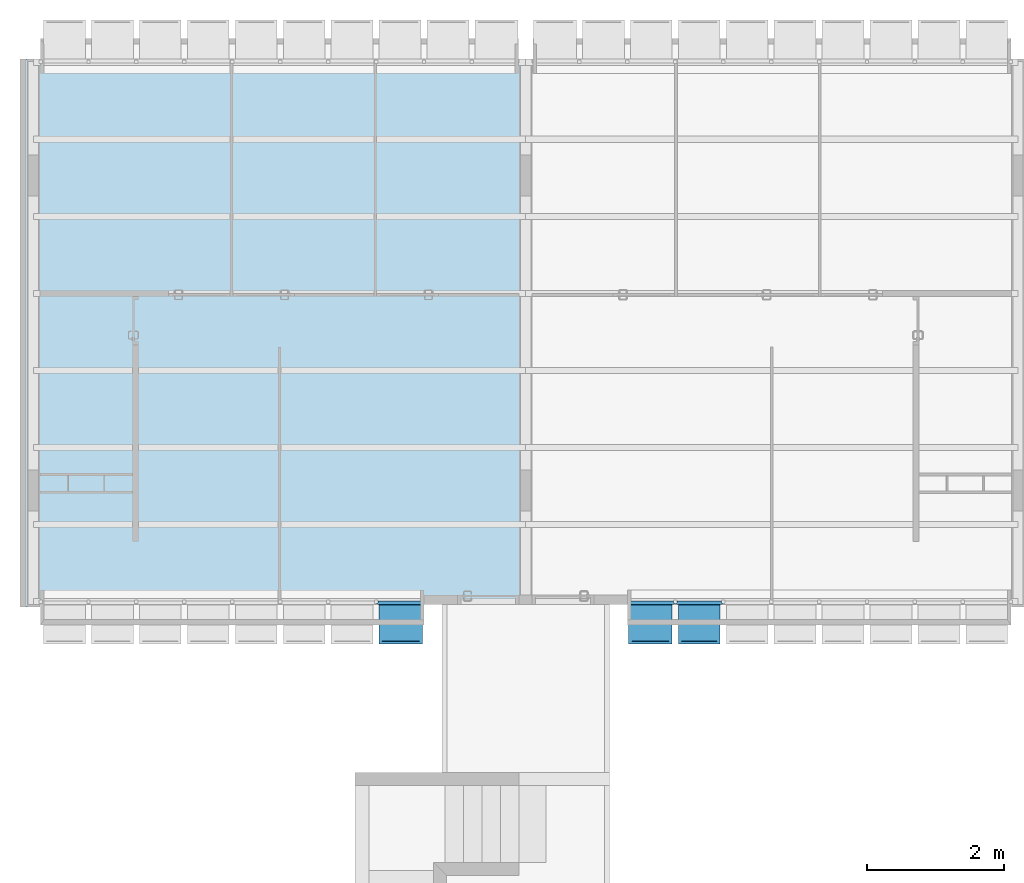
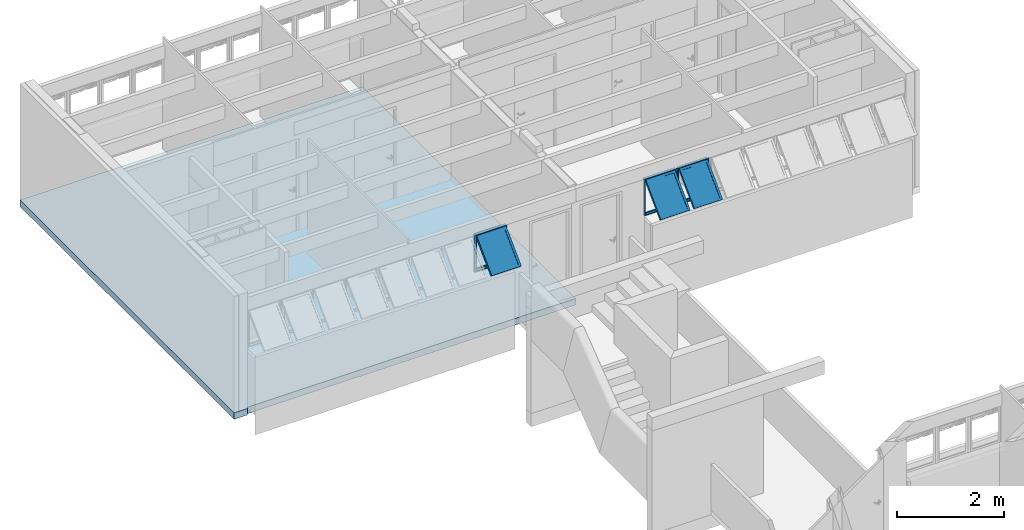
# One storey, part 12 of 40: 3 plates, 1 slab, 2 elements without a shape of their own.
"""IFC4 building model written with IfcOpenShell, lengths in millimetres."""

from ifc_helpers import new_model, entity, si_unit, converted_unit, derived_unit, direction, frame, origin_with_axes, place, context, subcontext, project, spatial, line, indexed_curve, outline, extrude, polygons, source, transform, mapped, material, layer, layer_set, layer_usage, constituent, constituent_set, type_object, element, aggregate, save


model = new_model("IFC4")

# Units and contexts
model_context = context("Model", 3, precision=0.01, world=origin_with_axes(), true_north=direction((0.0, 1.0)))
body_context = subcontext(model_context, "Body", "Model", "MODEL_VIEW")
ifc_project = project(units=[si_unit("LENGTHUNIT", "METRE", prefix="MILLI"), si_unit("AREAUNIT", "SQUARE_METRE"), si_unit("VOLUMEUNIT", "CUBIC_METRE"), converted_unit("PLANEANGLEUNIT", "DEGREE", entity("IfcPlaneAngleMeasure", 0.0174532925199), si_unit("PLANEANGLEUNIT", "RADIAN"), dimensions=[0, 0, 0, 0, 0, 0, 0]), converted_unit("TIMEUNIT", "Year", entity("IfcTimeMeasure", 31556926.0), si_unit("TIMEUNIT", "SECOND"), dimensions=[0, 0, 1, 0, 0, 0, 0]), si_unit("MASSUNIT", "GRAM", prefix="KILO"), si_unit("THERMODYNAMICTEMPERATUREUNIT", "DEGREE_CELSIUS"), si_unit("LUMINOUSINTENSITYUNIT", "LUMEN"), si_unit("ENERGYUNIT", "JOULE", prefix="MEGA"), derived_unit("THERMALCONDUCTANCEUNIT", [(si_unit("POWERUNIT", "WATT"), 1), (si_unit("LENGTHUNIT", "METRE"), -1), (si_unit("THERMODYNAMICTEMPERATUREUNIT", "KELVIN"), -1)]), derived_unit("SPECIFICHEATCAPACITYUNIT", [(si_unit("ENERGYUNIT", "JOULE"), 1), (si_unit("MASSUNIT", "GRAM", prefix="KILO"), -1), (si_unit("THERMODYNAMICTEMPERATUREUNIT", "KELVIN"), -1)]), derived_unit("MASSDENSITYUNIT", [(si_unit("MASSUNIT", "GRAM", prefix="KILO"), 1), (si_unit("VOLUMEUNIT", "CUBIC_METRE"), -1)])], contexts=[model_context])

# Site, building, storey
site_placement = place(None, origin_with_axes())
site = spatial("IfcSite", under=ifc_project, at=site_placement, Name="Local", CompositionType="ELEMENT")
building_placement = place(site_placement, origin_with_axes())
building = spatial("IfcBuilding", under=site, at=building_placement, Name="Construção", CompositionType="ELEMENT")
storey_placement = place(building_placement, origin_with_axes())
storey = spatial("IfcBuildingStorey", under=building, at=storey_placement, Name="Primeiro Pavimento", CompositionType="ELEMENT", Elevation=0.0)

# Slab
ifc_material_1 = material(Name="Concreto Armado Moldado in Loco - Estrutural")
ifc_layer = layer(ifc_material_1, 150.0, ventilated="UNKNOWN", Name="Concreto Armado Moldado in Loco - Estrutural")
ifc_layer_set = layer_set([ifc_layer], Name="Concreto Armado Moldado in Loco - Estrutural 150")
ifc_layer_usage = layer_usage(ifc_layer_set, "AXIS3", "NEGATIVE", 150.0)
slab_type = type_object("IfcSlabType", Name="Concreto Armado Moldado in Loco - Estrutural 150", PredefinedType="FLOOR")
slab_placement = place(storey_placement, frame((0.0, 25860.0, 0.0), z_axis=(0.0, 0.0, 1.0), x_axis=(1.0, 0.0, 0.0)))
element("IfcSlab", 1, at=slab_placement, inside=storey, type_object=slab_type, material=ifc_layer_usage, Name="APTO3-LAJE-000", PredefinedType="FLOOR", context=body_context, shape_type="SweptSolid", body=[
    extrude(outline(indexed_curve([(0.0, 0.0), (0.0, -7999.99999872), (289.999999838, -8000.00000006), (290.0, -7965.0), (5900.0, -7965.0), (6160.00008404, -7964.99999866), (7385.0, -7964.99999866), (7385.0, 0.0), (299.999978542, 0.0)], segments=[line(1, 2, 3, 4, 5, 6, 7, 8, 9, 1)])), frame((0.0, 0.0, -150.0), z_axis=(0.0, 0.0, 1.0), x_axis=(1.0, 0.0, 0.0)), (0.0, 0.0, 1.0), 150.0),
])

# Window, plates
window_type = type_object("IfcWindowType", Name="Tipo de Parede Cortina", PartitioningType="NOTDEFINED", PredefinedType="NOTDEFINED")
window_1_placement = place(storey_placement, frame((12020.0, 17910.0, 1355.00007107), z_axis=(0.0, 0.0, 1.0), x_axis=(1.0, 0.0, 0.0)))
window_1 = element("IfcWindow", 2, at=window_1_placement, inside=storey, type_object=window_type, Name="APTO4-JANELA-000", PredefinedType="NOTDEFINED")
ifc_material_2 = material(Name="Alumínio")
ifc_constituent_1 = constituent(ifc_material_2, Name="Alumínio")
ifc_material_3 = material(Name="Vidro")
ifc_constituent_2 = constituent(ifc_material_3, Name="Vidro")
ifc_constituent_set_1 = constituent_set(constituents=[ifc_constituent_1, ifc_constituent_2])
plate_type_1 = type_object("IfcPlateType", Name="Painel Principal 690 x 845 x 20", PredefinedType="CURTAIN_PANEL")
shared_shape_1 = source(origin_with_axes(), body_context, "Body", "Tessellation", [
    polygons([(-25.0000036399, 0.0, -40.0), (-25.0000036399, 0.0, -35.0), (-674.999997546, 0.0, -35.0), (-674.999997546, 0.0, -40.0), (-70.0000036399, 45.0, -40.0), (-70.0000036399, 45.0, -35.0), (-629.999997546, 45.0, -35.0), (-629.999997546, 45.0, -40.0)], [[[1, 2, 3, 4]], [[5, 6, 2, 1]], [[2, 6, 7, 3]], [[4, 3, 7, 8]], [[1, 4, 8, 5]], [[8, 7, 6, 5]]], closed=True),
    polygons([(-674.999997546, 0.0, -40.0), (-674.999997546, 0.0, -35.0), (-674.999997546, 844.999891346, -35.0), (-674.999997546, 844.999891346, -40.0), (-629.999997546, 45.0, -40.0), (-629.999997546, 45.0, -35.0), (-629.999997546, 799.999891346, -35.0), (-629.999997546, 799.999891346, -40.0)], [[[1, 2, 3, 4]], [[5, 6, 2, 1]], [[2, 6, 7, 3]], [[4, 3, 7, 8]], [[1, 4, 8, 5]], [[8, 7, 6, 5]]], closed=True),
    polygons([(-25.0000036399, 844.999891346, -40.0), (-25.0000036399, 844.999891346, -35.0), (-70.0000036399, 799.999891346, -35.0), (-70.0000036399, 799.999891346, -40.0), (-674.999997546, 844.999891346, -40.0), (-674.999997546, 844.999891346, -35.0), (-629.999997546, 799.999891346, -35.0), (-629.999997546, 799.999891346, -40.0)], [[[1, 2, 3, 4]], [[5, 6, 2, 1]], [[2, 6, 7, 3]], [[4, 3, 7, 8]], [[1, 4, 8, 5]], [[8, 7, 6, 5]]], closed=True),
    polygons([(-25.0000036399, 0.0, -40.0), (-25.0000036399, 0.0, -35.0), (-70.0000036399, 45.0, -35.0), (-70.0000036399, 45.0, -40.0), (-25.0000036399, 844.999891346, -40.0), (-25.0000036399, 844.999891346, -35.0), (-70.0000036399, 799.999891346, -35.0), (-70.0000036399, 799.999891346, -40.0)], [[[1, 2, 3, 4]], [[5, 6, 2, 1]], [[2, 6, 7, 3]], [[4, 3, 7, 8]], [[1, 4, 8, 5]], [[8, 7, 6, 5]]], closed=True),
    polygons([(-25.0000036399, 0.0, -35.0), (-25.0000036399, 0.0, 15.0), (-674.999997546, 0.0, 15.0), (-674.999997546, 0.0, -35.0), (-45.0000036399, 20.0, -35.0), (-45.0000036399, 20.0, 15.0), (-654.999997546, 20.0, 15.0), (-654.999997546, 20.0, -35.0)], [[[1, 2, 3, 4]], [[5, 6, 2, 1]], [[2, 6, 7, 3]], [[4, 3, 7, 8]], [[1, 4, 8, 5]], [[8, 7, 6, 5]]], closed=True),
    polygons([(-674.999997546, 0.0, -35.0), (-674.999997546, 0.0, 15.0), (-674.999997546, 844.999891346, 15.0), (-674.999997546, 844.999891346, -35.0), (-654.999997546, 20.0, -35.0), (-654.999997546, 20.0, 15.0), (-654.999997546, 824.999891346, 15.0), (-654.999997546, 824.999891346, -35.0)], [[[1, 2, 3, 4]], [[5, 6, 2, 1]], [[2, 6, 7, 3]], [[4, 3, 7, 8]], [[1, 4, 8, 5]], [[8, 7, 6, 5]]], closed=True),
    polygons([(-25.0000036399, 844.999891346, -35.0), (-25.0000036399, 844.999891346, 15.0), (-45.0000036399, 824.999891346, 15.0), (-45.0000036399, 824.999891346, -35.0), (-674.999997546, 844.999891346, -35.0), (-674.999997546, 844.999891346, 15.0), (-654.999997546, 824.999891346, 15.0), (-654.999997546, 824.999891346, -35.0)], [[[1, 2, 3, 4]], [[5, 6, 2, 1]], [[2, 6, 7, 3]], [[4, 3, 7, 8]], [[1, 4, 8, 5]], [[8, 7, 6, 5]]], closed=True),
    polygons([(-25.0000036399, 0.0, -35.0), (-25.0000036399, 0.0, 15.0), (-45.0000036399, 20.0, 15.0), (-45.0000036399, 20.0, -35.0), (-25.0000036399, 844.999891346, -35.0), (-25.0000036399, 844.999891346, 15.0), (-45.0000036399, 824.999891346, 15.0), (-45.0000036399, 824.999891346, -35.0)], [[[1, 2, 3, 4]], [[5, 6, 2, 1]], [[2, 6, 7, 3]], [[4, 3, 7, 8]], [[1, 4, 8, 5]], [[8, 7, 6, 5]]], closed=True),
    polygons([(-694.999995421, 0.0, -10.0), (-694.999995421, 0.0, 10.0), (-694.999995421, 844.999891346, 10.0), (-694.999995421, 844.999891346, -10.0), (-674.999997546, 0.0, -10.0), (-674.999997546, 0.0, 10.0), (-674.999997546, 844.999891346, 10.0), (-674.999997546, 844.999891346, -10.0)], [[[1, 2, 3, 4]], [[5, 6, 2, 1]], [[2, 6, 7, 3]], [[4, 3, 7, 8]], [[1, 4, 8, 5]], [[8, 7, 6, 5]]], closed=True),
    polygons([(-5.00000576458, 844.999891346, -10.0), (-5.00000576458, 844.999891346, 10.0), (-5.00000576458, 0.0, 10.0), (-5.00000576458, 0.0, -10.0), (-25.0000036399, 844.999891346, -10.0), (-25.0000036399, 844.999891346, 10.0), (-25.0000036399, 0.0, 10.0), (-25.0000036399, 0.0, -10.0)], [[[1, 2, 3, 4]], [[5, 6, 2, 1]], [[2, 6, 7, 3]], [[4, 3, 7, 8]], [[1, 4, 8, 5]], [[8, 7, 6, 5]]], closed=True),
    polygons([(-90.0000036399, 252.243475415, 517.045737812), (-90.0000036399, 291.13434838, 555.936610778), (-90.0000036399, 796.715620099, 50.3553390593), (-90.0000036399, 757.824747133, 11.4644660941), (-45.0000036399, 220.423670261, 548.865542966), (-45.0000036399, 259.314543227, 587.756415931), (-45.0000036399, 828.535425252, 18.5355339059), (-45.0000036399, 789.644552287, -20.3553390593)], [[[1, 2, 3, 4]], [[5, 6, 2, 1]], [[2, 6, 7, 3]], [[4, 3, 7, 8]], [[1, 4, 8, 5]], [[8, 7, 6, 5]]], closed=True),
    polygons([(-654.999997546, 220.423670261, 548.865542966), (-654.999997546, 259.314543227, 587.756415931), (-654.999997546, 828.535425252, 18.5355339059), (-654.999997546, 789.644552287, -20.3553390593), (-609.999997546, 252.243475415, 517.045737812), (-609.999997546, 291.13434838, 555.936610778), (-609.999997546, 796.715620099, 50.3553390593), (-609.999997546, 757.824747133, 11.4644660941)], [[[1, 2, 3, 4]], [[5, 6, 2, 1]], [[2, 6, 7, 3]], [[4, 3, 7, 8]], [[1, 4, 8, 5]], [[8, 7, 6, 5]]], closed=True),
    polygons([(-654.999997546, 220.423670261, 548.865542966), (-654.999997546, 259.314543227, 587.756415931), (-609.999997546, 291.13434838, 555.936610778), (-609.999997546, 252.243475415, 517.045737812), (-45.0000036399, 220.423670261, 548.865542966), (-45.0000036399, 259.314543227, 587.756415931), (-90.0000036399, 291.13434838, 555.936610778), (-90.0000036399, 252.243475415, 517.045737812)], [[[1, 2, 3, 4]], [[5, 6, 2, 1]], [[2, 6, 7, 3]], [[4, 3, 7, 8]], [[1, 4, 8, 5]], [[8, 7, 6, 5]]], closed=True),
    polygons([(-45.0000036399, 789.644552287, -20.3553390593), (-45.0000036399, 828.535425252, 18.5355339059), (-90.0000036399, 796.715620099, 50.3553390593), (-90.0000036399, 757.824747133, 11.4644660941), (-654.999997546, 789.644552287, -20.3553390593), (-654.999997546, 828.535425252, 18.5355339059), (-609.999997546, 796.715620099, 50.3553390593), (-609.999997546, 757.824747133, 11.4644660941)], [[[1, 2, 3, 4]], [[5, 6, 2, 1]], [[2, 6, 7, 3]], [[4, 3, 7, 8]], [[1, 4, 8, 5]], [[8, 7, 6, 5]]], closed=True),
    polygons([(-90.0000036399, 272.749572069, 537.551834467), (-90.0000036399, 284.063280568, 548.865542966), (-609.999997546, 284.063280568, 548.865542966), (-609.999997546, 272.749572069, 537.551834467), (-90.0000036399, 778.330843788, 31.9705627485), (-90.0000036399, 789.644552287, 43.2842712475), (-609.999997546, 789.644552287, 43.2842712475), (-609.999997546, 778.330843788, 31.9705627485)], [[[1, 2, 3, 4]], [[5, 6, 2, 1]], [[2, 6, 7, 3]], [[4, 3, 7, 8]], [[1, 4, 8, 5]], [[8, 7, 6, 5]]], closed=True),
])
plate_1_placement = place(window_1_placement, frame((-2100.0, 0.0, 422.499964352), z_axis=(0.0, 0.0, 1.0), x_axis=(1.0, 0.0, 0.0)))
plate_1 = element("IfcPlate", 3, at=plate_1_placement, type_object=plate_type_1, material=ifc_constituent_set_1, Name="APTO4-Painel-Prin-029", PredefinedType="CURTAIN_PANEL", context=body_context, shape_type="MappedRepresentation", body=[
    mapped(shared_shape_1, transform((350.0, 0.0, -422.499964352), x_axis=(1.0, 0.0, 0.0), y_axis=(0.0, 0.0, 1.0), z_axis=(0.0, -1.0, 0.0))),
])
ifc_constituent_3 = constituent(ifc_material_2, Name="Alumínio")
ifc_constituent_4 = constituent(ifc_material_3, Name="Vidro")
ifc_constituent_set_2 = constituent_set(constituents=[ifc_constituent_3, ifc_constituent_4])
plate_type_2 = type_object("IfcPlateType", Name="Painel Principal 695 x 845 x 20", PredefinedType="CURTAIN_PANEL")
shared_shape_2 = source(origin_with_axes(), body_context, "Body", "Tessellation", [
    polygons([(-25.0000062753, 0.0, -40.0), (-25.0000062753, 0.0, -35.0), (-699.999999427, 0.0, -35.0), (-699.999999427, 0.0, -40.0), (-70.0000062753, 45.0, -40.0), (-70.0000062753, 45.0, -35.0), (-654.999999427, 45.0, -35.0), (-654.999999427, 45.0, -40.0)], [[[1, 2, 3, 4]], [[5, 6, 2, 1]], [[2, 6, 7, 3]], [[4, 3, 7, 8]], [[1, 4, 8, 5]], [[8, 7, 6, 5]]], closed=True),
    polygons([(-699.999999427, 0.0, -40.0), (-699.999999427, 0.0, -35.0), (-699.999999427, 844.999980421, -35.0), (-699.999999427, 844.999980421, -40.0), (-654.999999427, 45.0, -40.0), (-654.999999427, 45.0, -35.0), (-654.999999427, 799.999980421, -35.0), (-654.999999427, 799.999980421, -40.0)], [[[1, 2, 3, 4]], [[5, 6, 2, 1]], [[2, 6, 7, 3]], [[4, 3, 7, 8]], [[1, 4, 8, 5]], [[8, 7, 6, 5]]], closed=True),
    polygons([(-25.0000062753, 844.999980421, -40.0), (-25.0000062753, 844.999980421, -35.0), (-70.0000062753, 799.999980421, -35.0), (-70.0000062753, 799.999980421, -40.0), (-699.999999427, 844.999980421, -40.0), (-699.999999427, 844.999980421, -35.0), (-654.999999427, 799.999980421, -35.0), (-654.999999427, 799.999980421, -40.0)], [[[1, 2, 3, 4]], [[5, 6, 2, 1]], [[2, 6, 7, 3]], [[4, 3, 7, 8]], [[1, 4, 8, 5]], [[8, 7, 6, 5]]], closed=True),
    polygons([(-25.0000062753, 0.0, -40.0), (-25.0000062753, 0.0, -35.0), (-70.0000062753, 45.0, -35.0), (-70.0000062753, 45.0, -40.0), (-25.0000062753, 844.999980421, -40.0), (-25.0000062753, 844.999980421, -35.0), (-70.0000062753, 799.999980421, -35.0), (-70.0000062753, 799.999980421, -40.0)], [[[1, 2, 3, 4]], [[5, 6, 2, 1]], [[2, 6, 7, 3]], [[4, 3, 7, 8]], [[1, 4, 8, 5]], [[8, 7, 6, 5]]], closed=True),
    polygons([(-25.0000062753, 0.0, -35.0), (-25.0000062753, 0.0, 15.0), (-699.999999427, 0.0, 15.0), (-699.999999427, 0.0, -35.0), (-45.0000062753, 20.0, -35.0), (-45.0000062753, 20.0, 15.0), (-679.999999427, 20.0, 15.0), (-679.999999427, 20.0, -35.0)], [[[1, 2, 3, 4]], [[5, 6, 2, 1]], [[2, 6, 7, 3]], [[4, 3, 7, 8]], [[1, 4, 8, 5]], [[8, 7, 6, 5]]], closed=True),
    polygons([(-699.999999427, 0.0, -35.0), (-699.999999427, 0.0, 15.0), (-699.999999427, 844.999980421, 15.0), (-699.999999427, 844.999980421, -35.0), (-679.999999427, 20.0, -35.0), (-679.999999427, 20.0, 15.0), (-679.999999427, 824.999980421, 15.0), (-679.999999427, 824.999980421, -35.0)], [[[1, 2, 3, 4]], [[5, 6, 2, 1]], [[2, 6, 7, 3]], [[4, 3, 7, 8]], [[1, 4, 8, 5]], [[8, 7, 6, 5]]], closed=True),
    polygons([(-25.0000062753, 844.999980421, -35.0), (-25.0000062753, 844.999980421, 15.0), (-45.0000062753, 824.999980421, 15.0), (-45.0000062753, 824.999980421, -35.0), (-699.999999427, 844.999980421, -35.0), (-699.999999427, 844.999980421, 15.0), (-679.999999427, 824.999980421, 15.0), (-679.999999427, 824.999980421, -35.0)], [[[1, 2, 3, 4]], [[5, 6, 2, 1]], [[2, 6, 7, 3]], [[4, 3, 7, 8]], [[1, 4, 8, 5]], [[8, 7, 6, 5]]], closed=True),
    polygons([(-25.0000062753, 0.0, -35.0), (-25.0000062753, 0.0, 15.0), (-45.0000062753, 20.0, 15.0), (-45.0000062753, 20.0, -35.0), (-25.0000062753, 844.999980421, -35.0), (-25.0000062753, 844.999980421, 15.0), (-45.0000062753, 824.999980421, 15.0), (-45.0000062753, 824.999980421, -35.0)], [[[1, 2, 3, 4]], [[5, 6, 2, 1]], [[2, 6, 7, 3]], [[4, 3, 7, 8]], [[1, 4, 8, 5]], [[8, 7, 6, 5]]], closed=True),
    polygons([(-5.00000629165, 844.999980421, -10.0), (-5.00000629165, 844.999980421, 10.0), (-5.00000629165, 0.0, 10.0), (-5.00000629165, 0.0, -10.0), (-25.0000062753, 844.999980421, -10.0), (-25.0000062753, 844.999980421, 10.0), (-25.0000062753, 0.0, 10.0), (-25.0000062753, 0.0, -10.0)], [[[1, 2, 3, 4]], [[5, 6, 2, 1]], [[2, 6, 7, 3]], [[4, 3, 7, 8]], [[1, 4, 8, 5]], [[8, 7, 6, 5]]], closed=True),
    polygons([(-90.0000062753, 252.243501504, 517.045800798), (-90.0000062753, 291.134374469, 555.936673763), (-90.0000062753, 796.715709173, 50.3553390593), (-90.0000062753, 757.824836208, 11.4644660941), (-45.0000062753, 220.423696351, 548.865605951), (-45.0000062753, 259.314569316, 587.756478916), (-45.0000062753, 828.535514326, 18.5355339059), (-45.0000062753, 789.644641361, -20.3553390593)], [[[1, 2, 3, 4]], [[5, 6, 2, 1]], [[2, 6, 7, 3]], [[4, 3, 7, 8]], [[1, 4, 8, 5]], [[8, 7, 6, 5]]], closed=True),
    polygons([(-679.999999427, 220.423696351, 548.865605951), (-679.999999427, 259.314569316, 587.756478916), (-679.999999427, 828.535514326, 18.5355339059), (-679.999999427, 789.644641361, -20.3553390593), (-634.999999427, 252.243501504, 517.045800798), (-634.999999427, 291.134374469, 555.936673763), (-634.999999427, 796.715709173, 50.3553390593), (-634.999999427, 757.824836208, 11.4644660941)], [[[1, 2, 3, 4]], [[5, 6, 2, 1]], [[2, 6, 7, 3]], [[4, 3, 7, 8]], [[1, 4, 8, 5]], [[8, 7, 6, 5]]], closed=True),
    polygons([(-679.999999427, 220.423696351, 548.865605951), (-679.999999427, 259.314569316, 587.756478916), (-634.999999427, 291.134374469, 555.936673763), (-634.999999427, 252.243501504, 517.045800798), (-45.0000062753, 220.423696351, 548.865605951), (-45.0000062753, 259.314569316, 587.756478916), (-90.0000062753, 291.134374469, 555.936673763), (-90.0000062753, 252.243501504, 517.045800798)], [[[1, 2, 3, 4]], [[5, 6, 2, 1]], [[2, 6, 7, 3]], [[4, 3, 7, 8]], [[1, 4, 8, 5]], [[8, 7, 6, 5]]], closed=True),
    polygons([(-45.0000062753, 789.644641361, -20.3553390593), (-45.0000062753, 828.535514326, 18.5355339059), (-90.0000062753, 796.715709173, 50.3553390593), (-90.0000062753, 757.824836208, 11.4644660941), (-679.999999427, 789.644641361, -20.3553390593), (-679.999999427, 828.535514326, 18.5355339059), (-634.999999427, 796.715709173, 50.3553390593), (-634.999999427, 757.824836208, 11.4644660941)], [[[1, 2, 3, 4]], [[5, 6, 2, 1]], [[2, 6, 7, 3]], [[4, 3, 7, 8]], [[1, 4, 8, 5]], [[8, 7, 6, 5]]], closed=True),
    polygons([(-90.0000062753, 272.749598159, 537.551897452), (-90.0000062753, 284.063306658, 548.865605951), (-634.999999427, 284.063306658, 548.865605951), (-634.999999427, 272.749598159, 537.551897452), (-90.0000062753, 778.330932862, 31.9705627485), (-90.0000062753, 789.644641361, 43.2842712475), (-634.999999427, 789.644641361, 43.2842712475), (-634.999999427, 778.330932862, 31.9705627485)], [[[1, 2, 3, 4]], [[5, 6, 2, 1]], [[2, 6, 7, 3]], [[4, 3, 7, 8]], [[1, 4, 8, 5]], [[8, 7, 6, 5]]], closed=True),
])
plate_2_placement = place(window_1_placement, frame((-2800.0, 0.0, 422.499986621), z_axis=(0.0, 0.0, 1.0), x_axis=(1.0, 0.0, 0.0)))
plate_2 = element("IfcPlate", 4, at=plate_2_placement, type_object=plate_type_2, material=ifc_constituent_set_2, Name="APTO4-Painel-Prin-020", PredefinedType="CURTAIN_PANEL", context=body_context, shape_type="MappedRepresentation", body=[
    mapped(shared_shape_2, transform((350.0, 0.0, -422.499986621), x_axis=(1.0, 0.0, 0.0), y_axis=(0.0, 0.0, 1.0), z_axis=(0.0, -1.0, 0.0))),
])
aggregate(window_1, [plate_1, plate_2])

# Window, plate
window_2_placement = place(storey_placement, frame((2750.0, 17910.0, 1355.00007107), z_axis=(0.0, 0.0, 1.0), x_axis=(1.0, 0.0, 0.0)))
window_2 = element("IfcWindow", 5, at=window_2_placement, inside=storey, type_object=window_type, Name="APTO3-JANELA-000", PredefinedType="NOTDEFINED")
ifc_constituent_5 = constituent(ifc_material_2, Name="Alumínio")
ifc_constituent_6 = constituent(ifc_material_3, Name="Vidro")
ifc_constituent_set_3 = constituent_set(constituents=[ifc_constituent_5, ifc_constituent_6])
shared_shape_3 = source(origin_with_axes(), body_context, "Body", "Tessellation", [
    polygons([(25.0000062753, 0.0, -40.0), (699.999999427, 0.0, -40.0), (699.999999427, 0.0, -35.0), (25.0000062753, 0.0, -35.0), (70.0000062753, 45.0, -40.0), (654.999999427, 45.0, -40.0), (654.999999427, 45.0, -35.0), (70.0000062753, 45.0, -35.0)], [[[1, 2, 3, 4]], [[1, 5, 6, 2]], [[2, 6, 7, 3]], [[4, 3, 7, 8]], [[5, 1, 4, 8]], [[6, 5, 8, 7]]], closed=True),
    polygons([(699.999999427, 0.0, -40.0), (699.999999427, 844.999980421, -40.0), (699.999999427, 844.999980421, -35.0), (699.999999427, 0.0, -35.0), (654.999999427, 45.0, -40.0), (654.999999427, 799.999980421, -40.0), (654.999999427, 799.999980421, -35.0), (654.999999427, 45.0, -35.0)], [[[1, 2, 3, 4]], [[1, 5, 6, 2]], [[2, 6, 7, 3]], [[4, 3, 7, 8]], [[5, 1, 4, 8]], [[6, 5, 8, 7]]], closed=True),
    polygons([(25.0000062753, 844.999980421, -40.0), (70.0000062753, 799.999980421, -40.0), (70.0000062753, 799.999980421, -35.0), (25.0000062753, 844.999980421, -35.0), (699.999999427, 844.999980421, -40.0), (654.999999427, 799.999980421, -40.0), (654.999999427, 799.999980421, -35.0), (699.999999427, 844.999980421, -35.0)], [[[1, 2, 3, 4]], [[1, 5, 6, 2]], [[2, 6, 7, 3]], [[4, 3, 7, 8]], [[5, 1, 4, 8]], [[6, 5, 8, 7]]], closed=True),
    polygons([(25.0000062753, 0.0, -40.0), (70.0000062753, 45.0, -40.0), (70.0000062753, 45.0, -35.0), (25.0000062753, 0.0, -35.0), (25.0000062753, 844.999980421, -40.0), (70.0000062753, 799.999980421, -40.0), (70.0000062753, 799.999980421, -35.0), (25.0000062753, 844.999980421, -35.0)], [[[1, 2, 3, 4]], [[1, 5, 6, 2]], [[2, 6, 7, 3]], [[4, 3, 7, 8]], [[5, 1, 4, 8]], [[6, 5, 8, 7]]], closed=True),
    polygons([(25.0000062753, 0.0, -35.0), (699.999999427, 0.0, -35.0), (699.999999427, 0.0, 15.0), (25.0000062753, 0.0, 15.0), (45.0000062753, 20.0, -35.0), (679.999999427, 20.0, -35.0), (679.999999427, 20.0, 15.0), (45.0000062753, 20.0, 15.0)], [[[1, 2, 3, 4]], [[1, 5, 6, 2]], [[2, 6, 7, 3]], [[4, 3, 7, 8]], [[5, 1, 4, 8]], [[6, 5, 8, 7]]], closed=True),
    polygons([(699.999999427, 0.0, -35.0), (699.999999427, 844.999980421, -35.0), (699.999999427, 844.999980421, 15.0), (699.999999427, 0.0, 15.0), (679.999999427, 20.0, -35.0), (679.999999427, 824.999980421, -35.0), (679.999999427, 824.999980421, 15.0), (679.999999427, 20.0, 15.0)], [[[1, 2, 3, 4]], [[1, 5, 6, 2]], [[2, 6, 7, 3]], [[4, 3, 7, 8]], [[5, 1, 4, 8]], [[6, 5, 8, 7]]], closed=True),
    polygons([(25.0000062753, 844.999980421, -35.0), (45.0000062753, 824.999980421, -35.0), (45.0000062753, 824.999980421, 15.0), (25.0000062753, 844.999980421, 15.0), (699.999999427, 844.999980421, -35.0), (679.999999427, 824.999980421, -35.0), (679.999999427, 824.999980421, 15.0), (699.999999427, 844.999980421, 15.0)], [[[1, 2, 3, 4]], [[1, 5, 6, 2]], [[2, 6, 7, 3]], [[4, 3, 7, 8]], [[5, 1, 4, 8]], [[6, 5, 8, 7]]], closed=True),
    polygons([(25.0000062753, 0.0, -35.0), (45.0000062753, 20.0, -35.0), (45.0000062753, 20.0, 15.0), (25.0000062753, 0.0, 15.0), (25.0000062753, 844.999980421, -35.0), (45.0000062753, 824.999980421, -35.0), (45.0000062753, 824.999980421, 15.0), (25.0000062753, 844.999980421, 15.0)], [[[1, 2, 3, 4]], [[1, 5, 6, 2]], [[2, 6, 7, 3]], [[4, 3, 7, 8]], [[5, 1, 4, 8]], [[6, 5, 8, 7]]], closed=True),
    polygons([(5.00000629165, 844.999980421, -10.0), (5.00000629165, 0.0, -10.0), (5.00000629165, 0.0, 10.0), (5.00000629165, 844.999980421, 10.0), (25.0000062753, 844.999980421, -10.0), (25.0000062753, 0.0, -10.0), (25.0000062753, 0.0, 10.0), (25.0000062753, 844.999980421, 10.0)], [[[1, 2, 3, 4]], [[1, 5, 6, 2]], [[2, 6, 7, 3]], [[4, 3, 7, 8]], [[5, 1, 4, 8]], [[6, 5, 8, 7]]], closed=True),
    polygons([(90.0000062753, 252.243501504, 517.045800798), (90.0000062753, 757.824836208, 11.4644660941), (90.0000062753, 796.715709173, 50.3553390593), (90.0000062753, 291.134374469, 555.936673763), (45.0000062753, 220.423696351, 548.865605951), (45.0000062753, 789.644641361, -20.3553390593), (45.0000062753, 828.535514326, 18.5355339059), (45.0000062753, 259.314569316, 587.756478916)], [[[1, 2, 3, 4]], [[1, 5, 6, 2]], [[2, 6, 7, 3]], [[4, 3, 7, 8]], [[5, 1, 4, 8]], [[6, 5, 8, 7]]], closed=True),
    polygons([(679.999999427, 220.423696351, 548.865605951), (679.999999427, 789.644641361, -20.3553390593), (679.999999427, 828.535514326, 18.5355339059), (679.999999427, 259.314569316, 587.756478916), (634.999999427, 252.243501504, 517.045800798), (634.999999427, 757.824836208, 11.4644660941), (634.999999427, 796.715709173, 50.3553390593), (634.999999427, 291.134374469, 555.936673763)], [[[1, 2, 3, 4]], [[1, 5, 6, 2]], [[2, 6, 7, 3]], [[4, 3, 7, 8]], [[5, 1, 4, 8]], [[6, 5, 8, 7]]], closed=True),
    polygons([(679.999999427, 220.423696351, 548.865605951), (634.999999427, 252.243501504, 517.045800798), (634.999999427, 291.134374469, 555.936673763), (679.999999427, 259.314569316, 587.756478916), (45.0000062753, 220.423696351, 548.865605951), (90.0000062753, 252.243501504, 517.045800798), (90.0000062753, 291.134374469, 555.936673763), (45.0000062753, 259.314569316, 587.756478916)], [[[1, 2, 3, 4]], [[1, 5, 6, 2]], [[2, 6, 7, 3]], [[4, 3, 7, 8]], [[5, 1, 4, 8]], [[6, 5, 8, 7]]], closed=True),
    polygons([(45.0000062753, 789.644641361, -20.3553390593), (90.0000062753, 757.824836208, 11.4644660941), (90.0000062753, 796.715709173, 50.3553390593), (45.0000062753, 828.535514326, 18.5355339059), (679.999999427, 789.644641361, -20.3553390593), (634.999999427, 757.824836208, 11.4644660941), (634.999999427, 796.715709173, 50.3553390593), (679.999999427, 828.535514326, 18.5355339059)], [[[1, 2, 3, 4]], [[1, 5, 6, 2]], [[2, 6, 7, 3]], [[4, 3, 7, 8]], [[5, 1, 4, 8]], [[6, 5, 8, 7]]], closed=True),
    polygons([(90.0000062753, 272.749598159, 537.551897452), (634.999999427, 272.749598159, 537.551897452), (634.999999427, 284.063306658, 548.865605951), (90.0000062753, 284.063306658, 548.865605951), (90.0000062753, 778.330932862, 31.9705627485), (634.999999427, 778.330932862, 31.9705627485), (634.999999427, 789.644641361, 43.2842712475), (90.0000062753, 789.644641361, 43.2842712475)], [[[1, 2, 3, 4]], [[1, 5, 6, 2]], [[2, 6, 7, 3]], [[4, 3, 7, 8]], [[5, 1, 4, 8]], [[6, 5, 8, 7]]], closed=True),
])
plate_3_placement = place(window_2_placement, frame((2800.0, 0.0, 422.499986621), z_axis=(0.0, 0.0, 1.0), x_axis=(-1.0, 0.0, 0.0)))
plate_3 = element("IfcPlate", 6, at=plate_3_placement, type_object=plate_type_2, material=ifc_constituent_set_3, Name="APTO3-Painel-Prin-020", PredefinedType="CURTAIN_PANEL", context=body_context, shape_type="MappedRepresentation", body=[
    mapped(shared_shape_3, transform((350.0, 0.0, -422.499986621), x_axis=(-1.0, 0.0, 0.0), y_axis=(0.0, 0.0, 1.0), z_axis=(0.0, 1.0, 0.0))),
])
aggregate(window_2, [plate_3])

save(model, "model.ifc")
